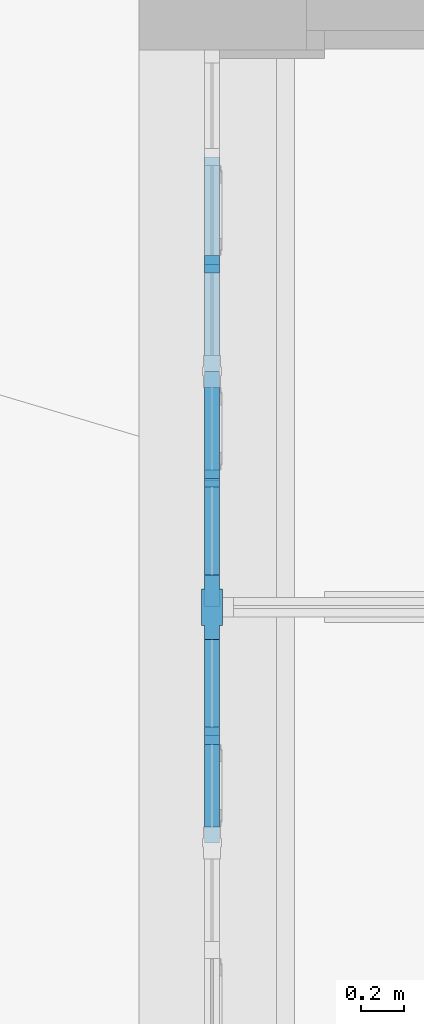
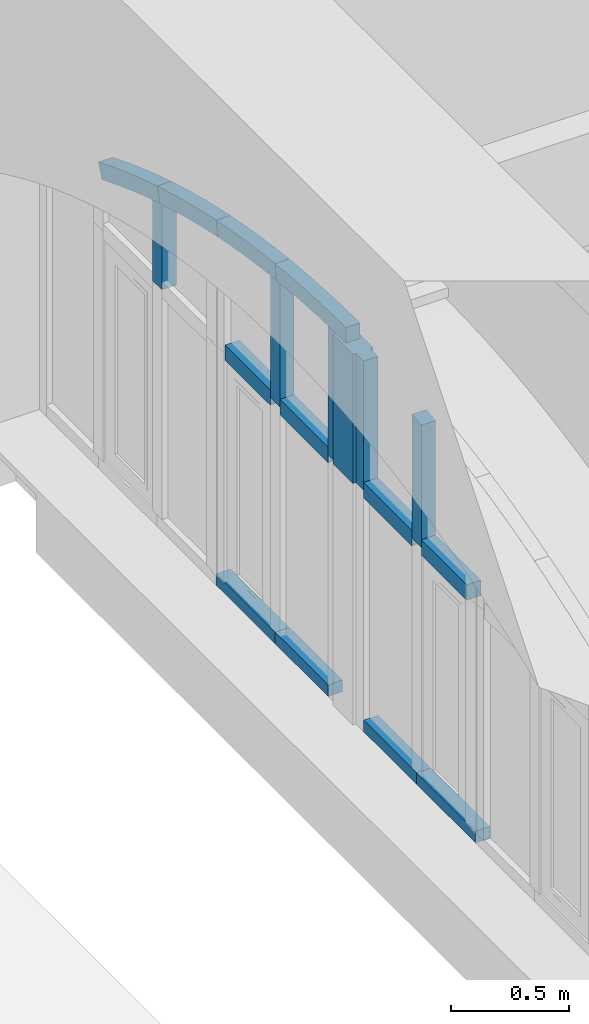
# One storey, part 44 of 88: 16 members, 1 element without a shape of its own.
"""IFC2X3 building model written with IfcOpenShell, lengths in millimetres."""

from ifc_helpers import new_model, entity, si_unit, converted_unit, derived_unit, direction, frame, frame_2d, origin, place, context, subcontext, project, spatial, polyline, circle_curve, parameter, trimmed, segment, composite_curve, rectangle, outline, extrude, faceted_brep, source, transform, mapped, material, type_object, type_shapes, element, aggregate, save


model = new_model("IFC2X3")

# Units and contexts
model_context = context("Model", 3, precision=0.01, world=origin(), true_north=direction((6.123031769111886e-17, 1.0)))
body_context = subcontext(model_context, "Body", "Model", "MODEL_VIEW")
ifc_project = project(units=[si_unit("LENGTHUNIT", "METRE", prefix="MILLI"), si_unit("AREAUNIT", "SQUARE_METRE"), si_unit("VOLUMEUNIT", "CUBIC_METRE"), converted_unit("PLANEANGLEUNIT", "DEGREE", entity("IfcPlaneAngleMeasure", 0.017453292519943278), si_unit("PLANEANGLEUNIT", "RADIAN"), dimensions=[0, 0, 0, 0, 0, 0, 0]), si_unit("MASSUNIT", "GRAM", prefix="KILO"), derived_unit("MASSDENSITYUNIT", [(si_unit("MASSUNIT", "GRAM", prefix="KILO"), 1), (si_unit("LENGTHUNIT", "METRE"), -3)]), derived_unit("IONCONCENTRATIONUNIT", [(si_unit("MASSUNIT", "GRAM", prefix="KILO"), 1), (si_unit("LENGTHUNIT", "METRE"), -3)]), derived_unit("MOMENTOFINERTIAUNIT", [(si_unit("LENGTHUNIT", "METRE"), 4)]), si_unit("TIMEUNIT", "SECOND"), si_unit("FREQUENCYUNIT", "HERTZ"), si_unit("THERMODYNAMICTEMPERATUREUNIT", "DEGREE_CELSIUS"), derived_unit("THERMALTRANSMITTANCEUNIT", [(si_unit("MASSUNIT", "GRAM", prefix="KILO"), 1), (si_unit("THERMODYNAMICTEMPERATUREUNIT", "KELVIN"), -1), (si_unit("TIMEUNIT", "SECOND"), -3)]), derived_unit("THERMALCONDUCTANCEUNIT", [(si_unit("MASSUNIT", "GRAM", prefix="KILO"), 1), (si_unit("THERMODYNAMICTEMPERATUREUNIT", "KELVIN"), -1), (si_unit("TIMEUNIT", "SECOND"), -3), (si_unit("LENGTHUNIT", "METRE"), 1)]), derived_unit("VOLUMETRICFLOWRATEUNIT", [(si_unit("LENGTHUNIT", "METRE", prefix="DECI"), 3), (si_unit("TIMEUNIT", "SECOND"), -1)]), derived_unit("MASSFLOWRATEUNIT", [(si_unit("MASSUNIT", "GRAM", prefix="KILO"), 1), (si_unit("TIMEUNIT", "SECOND"), -1)]), derived_unit("ROTATIONALFREQUENCYUNIT", [(si_unit("TIMEUNIT", "SECOND"), -1)]), si_unit("ELECTRICCURRENTUNIT", "AMPERE"), si_unit("ELECTRICVOLTAGEUNIT", "VOLT"), si_unit("POWERUNIT", "WATT"), si_unit("FORCEUNIT", "NEWTON", prefix="KILO"), si_unit("ILLUMINANCEUNIT", "LUX"), si_unit("LUMINOUSFLUXUNIT", "LUMEN"), si_unit("LUMINOUSINTENSITYUNIT", "CANDELA"), si_unit("ENERGYUNIT", "JOULE"), derived_unit("USERDEFINED", [(si_unit("MASSUNIT", "GRAM", prefix="KILO"), -1), (si_unit("LENGTHUNIT", "METRE"), -2), (si_unit("TIMEUNIT", "SECOND"), 3), (si_unit("LUMINOUSFLUXUNIT", "LUMEN"), 1)]), derived_unit("USERDEFINED", [(si_unit("MASSUNIT", "GRAM", prefix="KILO"), 1), (si_unit("TIMEUNIT", "SECOND"), -3), (si_unit("LENGTHUNIT", "METRE"), 3), (si_unit("ELECTRICCURRENTUNIT", "AMPERE"), -2)]), derived_unit("SOUNDPOWERUNIT", [(si_unit("MASSUNIT", "GRAM", prefix="KILO"), 1), (si_unit("TIMEUNIT", "SECOND"), -3), (si_unit("LENGTHUNIT", "METRE"), 2)]), derived_unit("SOUNDPRESSUREUNIT", [(si_unit("MASSUNIT", "GRAM", prefix="KILO"), 1), (si_unit("LENGTHUNIT", "METRE"), -1), (si_unit("TIMEUNIT", "SECOND"), -2)]), derived_unit("LINEARVELOCITYUNIT", [(si_unit("LENGTHUNIT", "METRE"), 1), (si_unit("TIMEUNIT", "SECOND"), -1)]), si_unit("PRESSUREUNIT", "PASCAL"), derived_unit("USERDEFINED", [(si_unit("MASSUNIT", "GRAM", prefix="KILO"), 1), (si_unit("LENGTHUNIT", "METRE"), -2), (si_unit("TIMEUNIT", "SECOND"), -2)]), derived_unit("LINEARFORCEUNIT", [(si_unit("MASSUNIT", "GRAM", prefix="KILO"), 1), (si_unit("TIMEUNIT", "SECOND"), -2)]), derived_unit("PLANARFORCEUNIT", [(si_unit("MASSUNIT", "GRAM", prefix="KILO"), 1), (si_unit("LENGTHUNIT", "METRE"), -1), (si_unit("TIMEUNIT", "SECOND"), -2)]), derived_unit("SPECIFICHEATCAPACITYUNIT", [(si_unit("THERMODYNAMICTEMPERATUREUNIT", "KELVIN"), -1), (si_unit("LENGTHUNIT", "METRE"), 2), (si_unit("TIMEUNIT", "SECOND"), -2)]), derived_unit("HEATFLUXDENSITYUNIT", [(si_unit("MASSUNIT", "GRAM", prefix="KILO"), 1), (si_unit("TIMEUNIT", "SECOND"), -3)]), derived_unit("HEATINGVALUEUNIT", [(si_unit("LENGTHUNIT", "METRE"), 2), (si_unit("TIMEUNIT", "SECOND"), -2)]), derived_unit("VAPORPERMEABILITYUNIT", [(si_unit("LENGTHUNIT", "METRE"), -1), (si_unit("TIMEUNIT", "SECOND"), 1)]), derived_unit("DYNAMICVISCOSITYUNIT", [(si_unit("MASSUNIT", "GRAM", prefix="KILO"), 1), (si_unit("TIMEUNIT", "SECOND"), -1), (si_unit("LENGTHUNIT", "METRE"), -1)]), derived_unit("THERMALEXPANSIONCOEFFICIENTUNIT", [(si_unit("THERMODYNAMICTEMPERATUREUNIT", "KELVIN"), -1)]), derived_unit("MODULUSOFELASTICITYUNIT", [(si_unit("MASSUNIT", "GRAM", prefix="KILO"), 1), (si_unit("LENGTHUNIT", "METRE"), -1), (si_unit("TIMEUNIT", "SECOND"), -2)]), derived_unit("ISOTHERMALMOISTURECAPACITYUNIT", [(si_unit("MASSUNIT", "GRAM", prefix="KILO"), -1), (si_unit("LENGTHUNIT", "METRE"), 3)]), derived_unit("MOISTUREDIFFUSIVITYUNIT", [(si_unit("TIMEUNIT", "SECOND"), -1), (si_unit("LENGTHUNIT", "METRE"), 2)]), derived_unit("MASSPERLENGTHUNIT", [(si_unit("MASSUNIT", "GRAM", prefix="KILO"), 1), (si_unit("LENGTHUNIT", "METRE"), -1)]), derived_unit("THERMALRESISTANCEUNIT", [(si_unit("MASSUNIT", "GRAM", prefix="KILO"), -1), (si_unit("TIMEUNIT", "SECOND"), 3), (si_unit("THERMODYNAMICTEMPERATUREUNIT", "KELVIN"), 1)]), derived_unit("ACCELERATIONUNIT", [(si_unit("LENGTHUNIT", "METRE"), 1), (si_unit("TIMEUNIT", "SECOND"), -2)]), derived_unit("ANGULARVELOCITYUNIT", [(si_unit("TIMEUNIT", "SECOND"), -1), (si_unit("PLANEANGLEUNIT", "RADIAN"), 1)]), derived_unit("LINEARSTIFFNESSUNIT", [(si_unit("MASSUNIT", "GRAM", prefix="KILO"), 1), (si_unit("TIMEUNIT", "SECOND"), -2)]), derived_unit("WARPINGCONSTANTUNIT", [(si_unit("LENGTHUNIT", "METRE"), 6)]), derived_unit("LINEARMOMENTUNIT", [(si_unit("MASSUNIT", "GRAM", prefix="KILO"), 1), (si_unit("LENGTHUNIT", "METRE"), 1), (si_unit("TIMEUNIT", "SECOND"), -2)]), derived_unit("TORQUEUNIT", [(si_unit("MASSUNIT", "GRAM", prefix="KILO"), 1), (si_unit("LENGTHUNIT", "METRE"), 2), (si_unit("TIMEUNIT", "SECOND"), -2)])], contexts=[model_context])

# Site, building, storey
site_placement = place(None, origin())
site = spatial("IfcSite", under=ifc_project, at=site_placement, Name="Default", CompositionType="ELEMENT")
building_placement = place(site_placement, origin())
building = spatial("IfcBuilding", under=site, at=building_placement, Name="Eesti Rahvusraamatukogu hoone renoveerimise projekteerimistööd", CompositionType="ELEMENT")
storey_placement = place(building_placement, origin())
storey = spatial("IfcBuildingStorey", under=building, at=storey_placement, Name="1. korrus", CompositionType="ELEMENT", Elevation=0.0)

# Curtain wall, members
curtain_wall_type = type_object("IfcCurtainWallType", Name="Curtain Wall:Ak-02", PredefinedType="NOTDEFINED")
curtain_wall_placement = place(storey_placement, origin())
curtain_wall = element("IfcCurtainWall", 1, at=curtain_wall_placement, inside=storey, type_object=curtain_wall_type, Name="Curtain Wall:Ak-02", ObjectType="Curtain Wall:Ak-02")
ifc_material = material(Name="LUMION_dark steel window frames")
member_type_1 = type_object("IfcMemberType", Name="Rectangular Mullion:NEW 80x70mm", PredefinedType="MULLION", material=ifc_material)
shared_shape_1 = source(origin(), body_context, "Body", "SweptSolid", [
    extrude(outline(composite_curve([segment(polyline([(-52.664386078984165, -263.1530214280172), (27.33561392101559, -263.1530214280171)]), True, "CONTINUOUS"), segment(trimmed(circle_curve(frame_2d((5468.051293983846, -263.1530214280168), x_axis=(-0.9953785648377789, 0.09602870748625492)), 5440.715680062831), [parameter(3.5622212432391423e-13)], [parameter(5.510531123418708)], True, "PARAMETER"), False, "CONTINUOUS"), segment(polyline([(52.479528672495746, 259.31187312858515), (-27.150756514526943, 266.9941697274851)]), True, "CONTINUOUS"), segment(trimmed(circle_curve(frame_2d((5468.051293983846, -263.1530214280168), x_axis=(-0.9953785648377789, 0.09602870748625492)), 5520.715680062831), [parameter(3.5622212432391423e-13)], [parameter(5.510531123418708)], True, "PARAMETER"), True, "CONTINUOUS")], self_intersect=False)), frame((-52.66438607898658, -35.0, -263.1530214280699), z_axis=(0.0, 1.0, 0.0), x_axis=(-0.9953785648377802, 0.0, 0.09602870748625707)), (0.0, 0.0, 1.0), 69.99999999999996),
])
type_shapes(member_type_1, [shared_shape_1])
member_1_placement = place(curtain_wall_placement, frame((-36440.0, 46990.0, 3743.633310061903), z_axis=(0.0, -0.9570819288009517, 0.2898174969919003), x_axis=(0.0, 0.2898174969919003, 0.9570819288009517)))
member_1 = element("IfcMember", 2, at=member_1_placement, type_object=member_type_1, material=ifc_material, Name="Rectangular Mullion:NEW 80x70mm", ObjectType="Rectangular Mullion:NEW 80x70mm", context=body_context, shape_type="MappedRepresentation", body=[
    mapped(shared_shape_1, transform((0.0, 0.0, 0.0), scale=1.0)),
])
member_type_2 = type_object("IfcMemberType", Name="Rectangular Mullion:NEW 80x70mm", PredefinedType="MULLION", material=ifc_material)
shared_shape_2 = source(origin(), body_context, "Body", "SweptSolid", [
    extrude(outline(composite_curve([segment(polyline([(-51.955427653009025, -255.69780513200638), (28.04457234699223, -255.69780513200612)]), True, "CONTINUOUS"), segment(trimmed(circle_curve(frame_2d((5468.760252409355, -255.69780513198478), x_axis=(-0.9956372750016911, 0.09330818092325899)), 5440.715680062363), [parameter(3.5622212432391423e-13)], [parameter(5.353953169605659)], True, "PARAMETER"), False, "CONTINUOUS"), segment(polyline([(51.78091865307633, 251.96547789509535), (-27.870063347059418, 259.4301323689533)]), True, "CONTINUOUS"), segment(trimmed(circle_curve(frame_2d((5468.760252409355, -255.69780513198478), x_axis=(-0.9956372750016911, 0.09330818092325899)), 5520.715680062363), [parameter(3.5622212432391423e-13)], [parameter(5.353953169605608)], True, "PARAMETER"), True, "CONTINUOUS")], self_intersect=False)), frame((-51.95542765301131, -35.0, -255.69780513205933), z_axis=(0.0, 1.0, 0.0), x_axis=(-0.9956372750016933, 0.0, 0.09330818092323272)), (0.0, 0.0, 1.0), 70.00000000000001),
])
type_shapes(member_type_2, [shared_shape_2])
member_2_placement = place(curtain_wall_placement, frame((-36440.0, 46490.0, 3869.874732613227), z_axis=(0.0, -0.9799487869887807, 0.1992495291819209), x_axis=(0.0, 0.1992495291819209, 0.9799487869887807)))
member_2 = element("IfcMember", 3, at=member_2_placement, type_object=member_type_2, material=ifc_material, Name="Rectangular Mullion:NEW 80x70mm", ObjectType="Rectangular Mullion:NEW 80x70mm", context=body_context, shape_type="MappedRepresentation", body=[
    mapped(shared_shape_2, transform((0.0, 0.0, 0.0), scale=1.0)),
])
member_type_3 = type_object("IfcMemberType", Name="Rectangular Mullion:NEW 80x70mm", PredefinedType="MULLION", material=ifc_material)
shared_shape_3 = source(origin(), body_context, "Body", "SweptSolid", [
    extrude(outline(composite_curve([segment(polyline([(-51.51245202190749, -250.9261639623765), (28.487547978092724, -250.92616396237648)]), True, "CONTINUOUS"), segment(trimmed(circle_curve(frame_2d((5469.203228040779, -250.92616396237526), x_axis=(-0.99579892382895, 0.0915669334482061)), 5440.715680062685), [parameter(3.5622212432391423e-13)], [parameter(5.2537580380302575)], True, "PARAMETER"), False, "CONTINUOUS"), segment(polyline([(51.344408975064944, 247.26348662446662), (-28.319504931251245, 254.58884130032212)]), True, "CONTINUOUS"), segment(trimmed(circle_curve(frame_2d((5469.203228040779, -250.92616396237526), x_axis=(-0.99579892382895, 0.0915669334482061)), 5520.715680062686), [parameter(3.5622212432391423e-13)], [parameter(5.2537580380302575)], True, "PARAMETER"), True, "CONTINUOUS")], self_intersect=False)), frame((-51.51245202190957, -35.0, -250.92616396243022), z_axis=(0.0, 1.0, 0.0), x_axis=(-0.995798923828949, 0.0, 0.09156693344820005)), (0.0, 0.0, 1.0), 70.00000000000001),
])
type_shapes(member_type_3, [shared_shape_3])
member_3_placement = place(curtain_wall_placement, frame((-36440.0, 45990.0, 3947.8704590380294), z_axis=(0.0, -0.9940766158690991, 0.10868156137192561), x_axis=(0.0, 0.10868156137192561, 0.9940766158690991)))
member_3 = element("IfcMember", 4, at=member_3_placement, type_object=member_type_3, material=ifc_material, Name="Rectangular Mullion:NEW 80x70mm", ObjectType="Rectangular Mullion:NEW 80x70mm", context=body_context, shape_type="MappedRepresentation", body=[
    mapped(shared_shape_3, transform((0.0, 0.0, 0.0), scale=1.0)),
])
member_type_4 = type_object("IfcMemberType", Name="Rectangular Mullion:NEW 80x70mm", PredefinedType="MULLION", material=ifc_material)
shared_shape_4 = source(origin(), body_context, "Body", "SweptSolid", [
    extrude(outline(composite_curve([segment(polyline([(-56.232192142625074, -297.82636877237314), (23.767807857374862, -297.82636877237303)]), True, "CONTINUOUS"), segment(trimmed(circle_curve(frame_2d((5464.483487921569, -297.8263687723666), x_axis=(-0.9940766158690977, 0.10868156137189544)), 5440.715680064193), [parameter(3.5622212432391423e-13)], [parameter(6.239318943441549)], True, "PARAMETER"), False, "CONTINUOUS"), segment(polyline([(55.99525677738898, 293.47910631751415), (-23.53087249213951, 302.1736312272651)]), True, "CONTINUOUS"), segment(trimmed(circle_curve(frame_2d((5464.483487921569, -297.8263687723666), x_axis=(-0.9940766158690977, 0.10868156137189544)), 5520.715680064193), [parameter(3.5622212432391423e-13)], [parameter(6.239318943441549)], True, "PARAMETER"), True, "CONTINUOUS")], self_intersect=False)), frame((-56.232192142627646, -35.0, -297.8263687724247), z_axis=(0.0, 1.0, 0.0), x_axis=(-0.9940766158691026, 0.0, 0.1086815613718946)), (0.0, 0.0, 1.0), 69.99999999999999),
])
type_shapes(member_type_4, [shared_shape_4])
member_4_placement = place(curtain_wall_placement, frame((-36440.0, 45390.0, 3980.5717786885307), z_axis=(0.0, -1.0, 0.0), x_axis=(0.0, 0.0, 1.0)))
member_4 = element("IfcMember", 5, at=member_4_placement, type_object=member_type_4, material=ifc_material, Name="Rectangular Mullion:NEW 80x70mm", ObjectType="Rectangular Mullion:NEW 80x70mm", context=body_context, shape_type="MappedRepresentation", body=[
    mapped(shared_shape_4, transform((0.0, 0.0, 0.0), scale=1.0)),
])
member_type_5 = type_object("IfcMemberType", Name="Rectangular Mullion:NEW 80x70mm", PredefinedType="MULLION", material=ifc_material)
shared_shape_5 = source(origin(), body_context, "Body", "SweptSolid", [
    extrude(outline(composite_curve([segment(polyline([(-259.34177632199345, -35.36292004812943), (182.78706183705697, -35.36292004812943)]), True, "CONTINUOUS"), segment(trimmed(circle_curve(frame_2d((-5029.485677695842, -1595.3629200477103), x_axis=(0.9799487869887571, 0.19924952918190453)), 5440.715680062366), [parameter(5.169029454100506)], [parameter(5.353953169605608)], True, "PARAMETER"), True, "CONTINUOUS"), segment(trimmed(circle_curve(frame_2d((-5029.48567769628, -1595.362920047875), x_axis=(0.9570819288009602, 0.2898174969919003)), 5440.715680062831), [parameter(0.0)], [parameter(0.6965383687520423)], True, "PARAMETER"), True, "CONTINUOUS"), segment(polyline([(158.17151137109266, 44.63707995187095), (-259.34177632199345, 44.63707995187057)]), True, "CONTINUOUS"), segment(polyline([(-259.34177632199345, 44.63707995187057), (-259.34177632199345, -35.36292004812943)]), True, "CONTINUOUS")], self_intersect=False)), frame((4.637079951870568, -35.0, -259.34177632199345), z_axis=(0.0, 1.0, 0.0), x_axis=(0.0, 0.0, -1.0)), (0.0, 0.0, 1.0), 70.00000000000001),
])
type_shapes(member_type_5, [shared_shape_5])
member_5_placement = place(curtain_wall_placement, frame((-36440.0, 46990.0, 3230.0), z_axis=(0.0, 0.0, -1.0), x_axis=(0.0, -1.0, 0.0)))
member_5 = element("IfcMember", 6, at=member_5_placement, type_object=member_type_5, material=ifc_material, Name="Rectangular Mullion:NEW 80x70mm", ObjectType="Rectangular Mullion:NEW 80x70mm", context=body_context, shape_type="MappedRepresentation", body=[
    mapped(shared_shape_5, transform((0.0, 0.0, 0.0), scale=1.0)),
])
member_type_6 = type_object("IfcMemberType", Name="Rectangular Mullion:NEW 80x70mm", PredefinedType="MULLION", material=ifc_material)
shared_shape_6 = source(origin(), body_context, "Body", "SweptSolid", [
    extrude(outline(composite_curve([segment(polyline([(-382.563636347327, -38.261095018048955), (259.11166761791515, -38.261095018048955)]), True, "CONTINUOUS"), segment(trimmed(circle_curve(frame_2d((-5152.707537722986, -598.2610950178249), x_axis=(1.0, 0.0)), 5440.715680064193), [parameter(5.907781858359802)], [parameter(6.239318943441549)], True, "PARAMETER"), True, "CONTINUOUS"), segment(trimmed(circle_curve(frame_2d((-5152.707537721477, -598.2610950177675), x_axis=(0.994076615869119, 0.10868156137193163)), 5440.715680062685), [parameter(0.0)], [parameter(0.5161152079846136)], True, "PARAMETER"), True, "CONTINUOUS"), segment(polyline([(250.23491165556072, 41.73890498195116), (-382.563636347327, 41.738904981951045)]), True, "CONTINUOUS"), segment(polyline([(-382.563636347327, 41.738904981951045), (-382.563636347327, -38.261095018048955)]), True, "CONTINUOUS")], self_intersect=False)), frame((1.7389049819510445, -35.0, -382.563636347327), z_axis=(0.0, 1.0, 0.0), x_axis=(0.0, 0.0, -1.0)), (0.0, 0.0, 1.0), 69.99999999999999),
])
type_shapes(member_type_6, [shared_shape_6])
member_6_placement = place(curtain_wall_placement, frame((-36440.0, 45990.0, 3230.0), z_axis=(0.0, 0.0, -1.0), x_axis=(0.0, -1.0, 0.0)))
member_6 = element("IfcMember", 7, at=member_6_placement, type_object=member_type_6, material=ifc_material, Name="Rectangular Mullion:NEW 80x70mm", ObjectType="Rectangular Mullion:NEW 80x70mm", context=body_context, shape_type="MappedRepresentation", body=[
    mapped(shared_shape_6, transform((0.0, 0.0, 0.0), scale=1.0)),
])
member_type_7 = type_object("IfcMemberType", Name="Rectangular Mullion:NEW 300x100mm", PredefinedType="MULLION", material=ifc_material)
shared_shape_7 = source(origin(), body_context, "Body", "Brep", [
    faceted_brep([(-85.0, -50.0, 0.0), (85.0, -50.0, 0.0), (85.0, -35.0, 0.0), (150.0, -35.0, 0.0), (150.0, 35.0, 0.0), (85.0, 35.0, 0.0), (85.0, 50.0, 0.0), (-85.0, 50.0, 0.0), (-85.0, 35.0, 0.0), (-150.0, 35.0, 0.0), (-150.0, -35.0, 0.0), (-85.0, -35.0, 0.0), (-85.0, 35.0, -669.9077630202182), (-117.50209737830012, 35.0, -669.3027955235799), (-150.0, 35.0, -668.5036429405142), (150.0, 35.0, -668.5036429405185), (117.50209737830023, 35.0, -669.3027955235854), (85.0, 35.0, -669.9077630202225), (-150.0, -35.0, -668.5036429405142), (-117.5020973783, -35.0, -669.3027955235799), (-85.0, -35.0, -669.9077630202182), (85.0, -35.0, -669.9077630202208), (117.50209737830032, -35.0, -669.3027955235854), (150.0, -35.0, -668.5036429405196), (-85.0, -50.0, -669.9077630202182), (-85.0, 50.0, -669.9077630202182), (-42.50064842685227, -50.0, -670.4057773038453), (0.0, -50.0, -670.5717786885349), (42.500648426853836, -50.0, -670.4057773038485), (85.0, -50.0, -669.9077630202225), (85.0, 50.0, -669.9077630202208), (42.500648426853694, 50.0, -670.4057773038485), (0.0, 50.0, -670.5717786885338), (-42.50064842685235, 50.0, -670.4057773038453)], [[[0, 1, 2, 3, 4, 5, 6, 7, 8, 9, 10, 11]], [[9, 8, 12, 13, 14]], [[5, 4, 15, 16, 17]], [[10, 9, 14, 18]], [[11, 10, 18, 19, 20]], [[3, 2, 21, 22, 23]], [[0, 11, 20, 24]], [[8, 7, 25, 12]], [[1, 0, 24, 26, 27, 28, 29]], [[2, 1, 29, 21]], [[6, 5, 17, 30]], [[4, 3, 23, 15]], [[7, 6, 30, 31, 32, 33, 25]], [[33, 32, 27, 26]], [[20, 12, 25, 33, 26, 24]], [[20, 19, 13, 12]], [[19, 18, 14, 13]], [[15, 23, 22, 16]], [[16, 22, 21, 17]], [[21, 29, 28, 31, 30, 17]], [[31, 28, 27, 32]]]),
])
type_shapes(member_type_7, [shared_shape_7])
member_7_placement = place(curtain_wall_placement, frame((-36440.0, 45390.0, 3230.0), z_axis=(0.0, 0.0, -1.0), x_axis=(0.0, -1.0, 0.0)))
member_7 = element("IfcMember", 8, at=member_7_placement, type_object=member_type_7, material=ifc_material, Name="Rectangular Mullion:NEW 300x100mm", ObjectType="Rectangular Mullion:NEW 300x100mm", context=body_context, shape_type="MappedRepresentation", body=[
    mapped(shared_shape_7, transform((0.0, 0.0, 0.0), scale=1.0)),
])
member_type_8 = type_object("IfcMemberType", Name="Rectangular Mullion:NEW 80x70mm", PredefinedType="MULLION", material=ifc_material)
shared_shape_8 = source(origin(), body_context, "Body", "SweptSolid", [
    extrude(outline(composite_curve([segment(polyline([(-382.56363634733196, -41.73890498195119), (250.23491165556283, -41.73890498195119)]), True, "CONTINUOUS"), segment(trimmed(circle_curve(frame_2d((-5152.707537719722, 598.2610950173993), x_axis=(0.9799487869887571, -0.19924952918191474)), 5440.715680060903), [parameter(4.737642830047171)], [parameter(5.253758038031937)], True, "PARAMETER"), True, "CONTINUOUS"), segment(trimmed(circle_curve(frame_2d((-5152.70753772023, 598.2610950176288), x_axis=(0.994076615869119, -0.10868156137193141)), 5440.715680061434), [parameter(0.0)], [parameter(0.33153708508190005)], True, "PARAMETER"), True, "CONTINUOUS"), segment(polyline([(259.11166761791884, 38.26109501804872), (-382.56363634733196, 38.26109501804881)]), True, "CONTINUOUS"), segment(polyline([(-382.56363634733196, 38.26109501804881), (-382.56363634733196, -41.73890498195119)]), True, "CONTINUOUS")], self_intersect=False)), frame((-1.7389049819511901, -35.0, -382.56363634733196), z_axis=(0.0, 1.0, 0.0), x_axis=(0.0, 0.0, -1.0)), (0.0, 0.0, 1.0), 70.00000000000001),
])
type_shapes(member_type_8, [shared_shape_8])
member_8_placement = place(curtain_wall_placement, frame((-36440.0, 44790.0, 3230.0), z_axis=(0.0, 0.0, -1.0), x_axis=(0.0, -1.0, 0.0)))
member_8 = element("IfcMember", 9, at=member_8_placement, type_object=member_type_8, material=ifc_material, Name="Rectangular Mullion:NEW 80x70mm", ObjectType="Rectangular Mullion:NEW 80x70mm", context=body_context, shape_type="MappedRepresentation", body=[
    mapped(shared_shape_8, transform((0.0, 0.0, 0.0), scale=1.0)),
])
member_type_9 = type_object("IfcMemberType", Name="Rectangular Mullion:NEW 80x70mm", PredefinedType="MULLION", material=ifc_material)
shared_shape_9 = source(origin(), body_context, "Body", "SweptSolid", [
    extrude(rectangle(XDim=80.0, YDim=70.0, at=frame_2d((0.0, -3.552713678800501e-15), x_axis=(1.0, 0.0))), frame((0.0, 0.0, -385.0), z_axis=(0.0, 0.0, 1.0), x_axis=(-1.0, 0.0, 0.0)), (0.0, 0.0, 1.0), 384.99999999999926),
])
type_shapes(member_type_9, [shared_shape_9])
member_9_placement = place(curtain_wall_placement, frame((-36440.0, 46030.0, 3230.0), z_axis=(0.0, -1.0, 0.0), x_axis=(0.0, 0.0, 1.0)))
member_9 = element("IfcMember", 10, at=member_9_placement, type_object=member_type_9, material=ifc_material, Name="Rectangular Mullion:NEW 80x70mm", ObjectType="Rectangular Mullion:NEW 80x70mm", context=body_context, shape_type="MappedRepresentation", body=[
    mapped(shared_shape_9, transform((0.0, 0.0, 0.0), scale=1.0)),
])
member_10_placement = place(curtain_wall_placement, frame((-36440.0, 44365.0, 3230.0), z_axis=(0.0, -1.0, 0.0), x_axis=(0.0, 0.0, 1.0)))
member_10 = element("IfcMember", 11, at=member_10_placement, type_object=member_type_9, material=ifc_material, Name="Rectangular Mullion:NEW 80x70mm", ObjectType="Rectangular Mullion:NEW 80x70mm", context=body_context, shape_type="MappedRepresentation", body=[
    mapped(shared_shape_9, transform((0.0, 0.0, 0.0), scale=1.0)),
])
member_type_10 = type_object("IfcMemberType", Name="Rectangular Mullion:NEW 80x70mm", PredefinedType="MULLION", material=ifc_material)
shared_shape_10 = source(origin(), body_context, "Body", "SweptSolid", [
    extrude(rectangle(XDim=80.0, YDim=70.0, at=frame_2d((0.0, -3.552713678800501e-15), x_axis=(1.0, 0.0))), frame((0.0, 0.0, -410.0), z_axis=(0.0, 0.0, 1.0), x_axis=(-1.0, 0.0, 0.0)), (0.0, 0.0, 1.0), 409.9999999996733),
])
type_shapes(member_type_10, [shared_shape_10])
member_11_placement = place(curtain_wall_placement, frame((-36440.0, 45540.0, 3230.0), z_axis=(0.0, -1.0, 0.0), x_axis=(0.0, 0.0, 1.0)))
member_11 = element("IfcMember", 12, at=member_11_placement, type_object=member_type_10, material=ifc_material, Name="Rectangular Mullion:NEW 80x70mm", ObjectType="Rectangular Mullion:NEW 80x70mm", context=body_context, shape_type="MappedRepresentation", body=[
    mapped(shared_shape_10, transform((0.0, 0.0, 0.0), scale=1.0)),
])
member_12_placement = place(curtain_wall_placement, frame((-36440.0, 44830.0, 3230.0), z_axis=(0.0, -1.0, 0.0), x_axis=(0.0, 0.0, 1.0)))
member_12 = element("IfcMember", 13, at=member_12_placement, type_object=member_type_10, material=ifc_material, Name="Rectangular Mullion:NEW 80x70mm", ObjectType="Rectangular Mullion:NEW 80x70mm", context=body_context, shape_type="MappedRepresentation", body=[
    mapped(shared_shape_10, transform((0.0, 0.0, 0.0), scale=1.0)),
])
member_type_11 = type_object("IfcMemberType", Name="Rectangular Mullion:NEW 60x70mm", PredefinedType="MULLION", material=ifc_material)
shared_shape_11 = source(origin(), body_context, "Body", "SweptSolid", [
    extrude(rectangle(XDim=60.0, YDim=70.0, at=frame_2d((0.0, 3.552713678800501e-15), x_axis=(1.0, 0.0))), frame((-30.0, 0.0, -500.0), z_axis=(0.0, 0.0, 1.0), x_axis=(-1.0, 0.0, 0.0)), (0.0, 0.0, 1.0), 499.999999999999),
])
type_shapes(member_type_11, [shared_shape_11])
member_13_placement = place(curtain_wall_placement, frame((-36440.0, 46490.0, 1980.0), z_axis=(0.0, 1.0, 0.0), x_axis=(0.0, 0.0, -1.0)))
member_13 = element("IfcMember", 14, at=member_13_placement, type_object=member_type_11, material=ifc_material, Name="Rectangular Mullion:NEW 60x70mm", ObjectType="Rectangular Mullion:NEW 60x70mm", context=body_context, shape_type="MappedRepresentation", body=[
    mapped(shared_shape_11, transform((0.0, 0.0, 0.0), scale=1.0)),
])
member_14_placement = place(curtain_wall_placement, frame((-36440.0, 44790.0, 1980.0), z_axis=(0.0, 1.0, 0.0), x_axis=(0.0, 0.0, -1.0)))
member_14 = element("IfcMember", 15, at=member_14_placement, type_object=member_type_11, material=ifc_material, Name="Rectangular Mullion:NEW 60x70mm", ObjectType="Rectangular Mullion:NEW 60x70mm", context=body_context, shape_type="MappedRepresentation", body=[
    mapped(shared_shape_11, transform((0.0, 0.0, 0.0), scale=1.0)),
])
member_type_12 = type_object("IfcMemberType", Name="Rectangular Mullion:NEW 60x70mm", PredefinedType="MULLION", material=ifc_material)
shared_shape_12 = source(origin(), body_context, "Body", "SweptSolid", [
    extrude(rectangle(XDim=60.0, YDim=70.0, at=frame_2d((0.0, 3.552713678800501e-15), x_axis=(1.0, 0.0))), frame((-30.0, 0.0, -450.0), z_axis=(0.0, 0.0, 1.0), x_axis=(-1.0, 0.0, 0.0)), (0.0, 0.0, 1.0), 449.99999999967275),
])
type_shapes(member_type_12, [shared_shape_12])
member_15_placement = place(curtain_wall_placement, frame((-36440.0, 45990.0, 1980.0), z_axis=(0.0, 1.0, 0.0), x_axis=(0.0, 0.0, -1.0)))
member_15 = element("IfcMember", 16, at=member_15_placement, type_object=member_type_12, material=ifc_material, Name="Rectangular Mullion:NEW 60x70mm", ObjectType="Rectangular Mullion:NEW 60x70mm", context=body_context, shape_type="MappedRepresentation", body=[
    mapped(shared_shape_12, transform((0.0, 0.0, 0.0), scale=1.0)),
])
member_type_13 = type_object("IfcMemberType", Name="Rectangular Mullion:NEW 60x70mm", PredefinedType="MULLION", material=ifc_material)
shared_shape_13 = source(origin(), body_context, "Body", "SweptSolid", [
    extrude(rectangle(XDim=60.0, YDim=70.0, at=frame_2d((0.0, 3.552713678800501e-15), x_axis=(1.0, 0.0))), frame((-30.0, 0.0, -450.0), z_axis=(0.0, 0.0, 1.0), x_axis=(-1.0, 0.0, 0.0)), (0.0, 0.0, 1.0), 449.9999999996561),
])
type_shapes(member_type_13, [shared_shape_13])
member_16_placement = place(curtain_wall_placement, frame((-36440.0, 45240.0, 1980.0), z_axis=(0.0, 1.0, 0.0), x_axis=(0.0, 0.0, -1.0)))
member_16 = element("IfcMember", 17, at=member_16_placement, type_object=member_type_13, material=ifc_material, Name="Rectangular Mullion:NEW 60x70mm", ObjectType="Rectangular Mullion:NEW 60x70mm", context=body_context, shape_type="MappedRepresentation", body=[
    mapped(shared_shape_13, transform((0.0, 0.0, 0.0), scale=1.0)),
])
aggregate(curtain_wall, [member_1, member_2, member_3, member_4, member_5, member_6, member_7, member_8, member_9, member_11, member_10, member_12, member_13, member_15, member_14, member_16])

save(model, "model.ifc")
